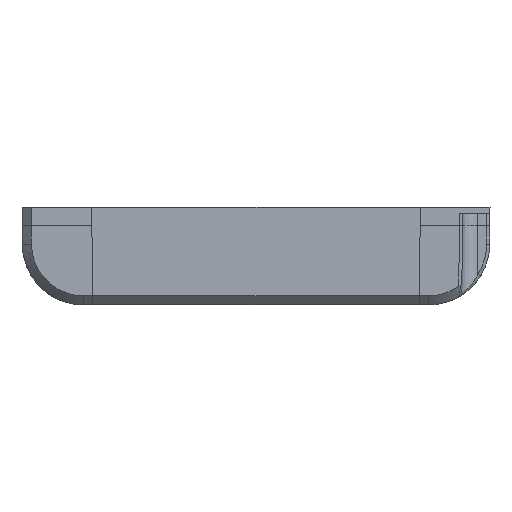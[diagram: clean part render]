
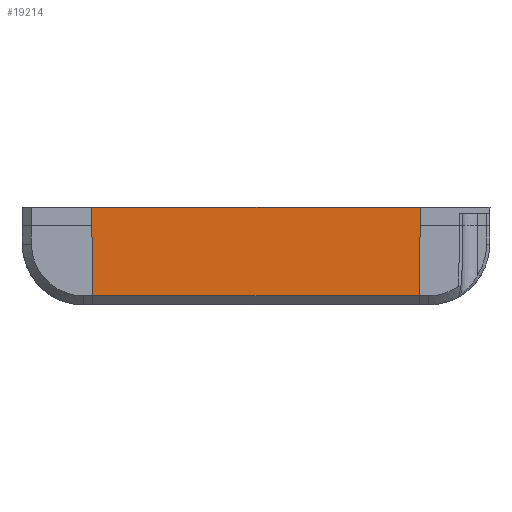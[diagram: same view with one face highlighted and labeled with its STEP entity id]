
A CAD part, front view. The second image highlights one B-rep face of the part: STEP entity #19214.
In plain terms, the highlighted planar face has unit normal (0, -1, -0.009).
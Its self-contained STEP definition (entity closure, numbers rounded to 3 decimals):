
#15655=DIRECTION('',(0.009,-0.009,1.));
#15656=VECTOR('',#15655,29.002);
#15657=CARTESIAN_POINT('',(53.447,-20.447,
-29.));
#15658=LINE('',#15657,#15656);
#16025=DIRECTION('',(0.009,0.009,-1.));
#16026=VECTOR('',#16025,29.002);
#16027=CARTESIAN_POINT('',(-53.7,-20.7,0.));
#16028=LINE('',#16027,#16026);
#16579=DIRECTION('',(1.,0.,0.));
#16580=VECTOR('',#16579,107.4);
#16581=CARTESIAN_POINT('',(-53.7,-20.7,0.));
#16582=LINE('',#16581,#16580);
#16587=DIRECTION('',(1.,0.,0.));
#16588=VECTOR('',#16587,106.894);
#16589=CARTESIAN_POINT('',(-53.447,-20.447,
-29.));
#16590=LINE('',#16589,#16588);
#17321=CARTESIAN_POINT('',(-53.7,-20.7,0.));
#17322=CARTESIAN_POINT('',(53.7,-20.7,0.));
#17323=VERTEX_POINT('',#17321);
#17324=VERTEX_POINT('',#17322);
#17442=CARTESIAN_POINT('',(53.447,-20.447,
-29.));
#17444=VERTEX_POINT('',#17442);
#17447=CARTESIAN_POINT('',(-53.447,-20.447,
-29.));
#17448=VERTEX_POINT('',#17447);
#19202=CARTESIAN_POINT('',(-55.763,-20.7,0.));
#19203=DIRECTION('',(0.,1.,0.009));
#19204=DIRECTION('',(-1.,0.,0.));
#19205=AXIS2_PLACEMENT_3D('',#19202,#19203,#19204);
#19206=PLANE('',#19205);
#19208=ORIENTED_EDGE('',*,*,#19207,.F.);
#19209=ORIENTED_EDGE('',*,*,#18437,.F.);
#19210=ORIENTED_EDGE('',*,*,#17592,.T.);
#19211=ORIENTED_EDGE('',*,*,#17989,.F.);
#19212=EDGE_LOOP('',(#19208,#19209,#19210,#19211));
#19213=FACE_OUTER_BOUND('',#19212,.F.);
#19214=ADVANCED_FACE('',(#19213),#19206,.F.);
#17592=EDGE_CURVE('',#17323,#17324,#16582,.T.);
#17989=EDGE_CURVE('',#17444,#17324,#15658,.T.);
#18437=EDGE_CURVE('',#17323,#17448,#16028,.T.);
#19207=EDGE_CURVE('',#17448,#17444,#16590,.T.);
